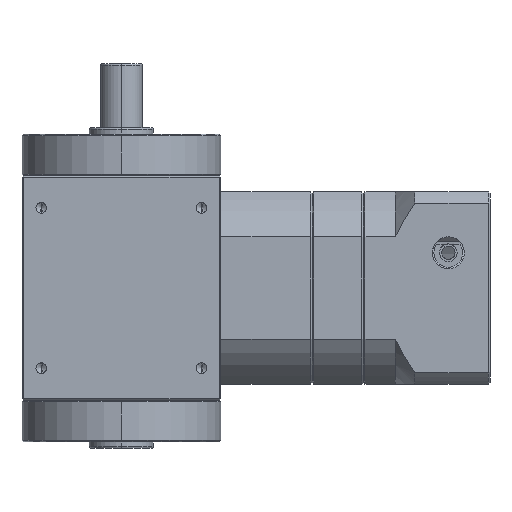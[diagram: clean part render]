
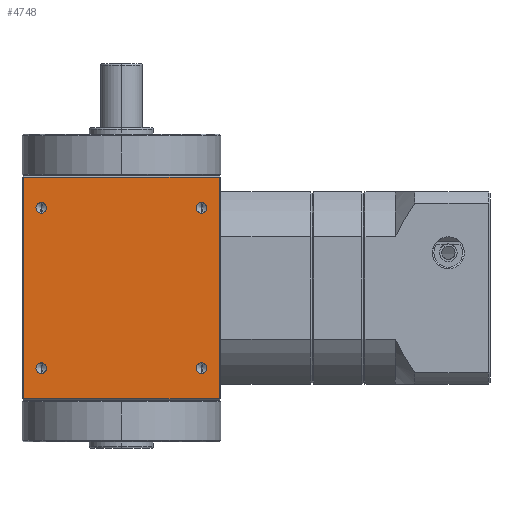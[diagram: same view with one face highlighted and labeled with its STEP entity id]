
A CAD part, left-side view. The second image highlights one B-rep face of the part: STEP entity #4748.
In plain terms, the highlighted planar face has unit normal (-1, 0, 0).
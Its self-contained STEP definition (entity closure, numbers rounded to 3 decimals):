
#153 = ORIENTED_EDGE ( 'NONE', *, *, #4326, .T. ) ;
#158 = ORIENTED_EDGE ( 'NONE', *, *, #1406, .F. ) ;
#161 = ORIENTED_EDGE ( 'NONE', *, *, #4324, .T. ) ;
#166 = ORIENTED_EDGE ( 'NONE', *, *, #4335, .T. ) ;
#168 = ORIENTED_EDGE ( 'NONE', *, *, #1368, .F. ) ;
#173 = ORIENTED_EDGE ( 'NONE', *, *, #4373, .F. ) ;
#174 = ORIENTED_EDGE ( 'NONE', *, *, #1419, .F. ) ;
#175 = ORIENTED_EDGE ( 'NONE', *, *, #4313, .F. ) ;
#181 = ORIENTED_EDGE ( 'NONE', *, *, #4332, .F. ) ;
#191 = ORIENTED_EDGE ( 'NONE', *, *, #1356, .F. ) ;
#192 = ORIENTED_EDGE ( 'NONE', *, *, #4319, .T. ) ;
#196 = ORIENTED_EDGE ( 'NONE', *, *, #4369, .F. ) ;
#990 = VERTEX_POINT ( 'NONE', #5071 ) ;
#1003 = VERTEX_POINT ( 'NONE', #5089 ) ;
#1040 = VERTEX_POINT ( 'NONE', #5126 ) ;
#1054 = VERTEX_POINT ( 'NONE', #5140 ) ;
#1055 = VERTEX_POINT ( 'NONE', #5141 ) ;
#1073 = VERTEX_POINT ( 'NONE', #5159 ) ;
#1074 = VERTEX_POINT ( 'NONE', #5160 ) ;
#1148 = VERTEX_POINT ( 'NONE', #5234 ) ;
#1173 = VERTEX_POINT ( 'NONE', #5259 ) ;
#1192 = VERTEX_POINT ( 'NONE', #5278 ) ;
#1249 = VERTEX_POINT ( 'NONE', #5305 ) ;
#1271 = VERTEX_POINT ( 'NONE', #5327 ) ;
#1356 = EDGE_CURVE ( 'NONE', #1173, #1148, #8085, .T. ) ;
#1368 = EDGE_CURVE ( 'NONE', #1271, #1249, #8106, .T. ) ;
#1406 = EDGE_CURVE ( 'NONE', #1055, #1054, #8154, .T. ) ;
#1419 = EDGE_CURVE ( 'NONE', #1073, #1074, #8178, .T. ) ;
#1533 = CARTESIAN_POINT ( 'NONE',  ( -31., -25., 25. ) ) ;
#1534 = DIRECTION ( 'NONE',  ( -1., 0., 0. ) ) ;
#1535 = DIRECTION ( 'NONE',  ( 0., 0., 1. ) ) ;
#1565 = DIRECTION ( 'NONE',  ( 0., 0., 1. ) ) ;
#1569 = CARTESIAN_POINT ( 'NONE',  ( -31., -30.5, 35. ) ) ;
#1570 = CARTESIAN_POINT ( 'NONE',  ( -31., -31., -34.5 ) ) ;
#1581 = DIRECTION ( 'NONE',  ( 0., 1., 0. ) ) ;
#1583 = DIRECTION ( 'NONE',  ( 0., -1., 0. ) ) ;
#1584 = CARTESIAN_POINT ( 'NONE',  ( -31., 31., 34.5 ) ) ;
#1607 = CARTESIAN_POINT ( 'NONE',  ( -31., -25., -25. ) ) ;
#1608 = DIRECTION ( 'NONE',  ( -1., 0., 0. ) ) ;
#1609 = DIRECTION ( 'NONE',  ( 0., 0., 1. ) ) ;
#1626 = CARTESIAN_POINT ( 'NONE',  ( -31., 30.5, 35. ) ) ;
#1627 = DIRECTION ( 'NONE',  ( 0., 0., -1. ) ) ;
#1788 = CARTESIAN_POINT ( 'NONE',  ( -31., 25., -25. ) ) ;
#1789 = DIRECTION ( 'NONE',  ( -1., 0., 0. ) ) ;
#1790 = DIRECTION ( 'NONE',  ( 0., 0., 1. ) ) ;
#1798 = CARTESIAN_POINT ( 'NONE',  ( -31., 25., 25. ) ) ;
#1799 = DIRECTION ( 'NONE',  ( -1., 0., 0. ) ) ;
#1800 = DIRECTION ( 'NONE',  ( 0., 0., 1. ) ) ;
#3470 = DIRECTION ( 'NONE',  ( 1., 0., 0. ) ) ;
#3472 = PLANE ( 'NONE',  #7701 ) ;
#3474 = CARTESIAN_POINT ( 'NONE',  ( -31., -31., 35. ) ) ;
#3476 = DIRECTION ( 'NONE',  ( 0., 0., -1. ) ) ;
#4313 = EDGE_CURVE ( 'NONE', #1054, #1055, #8230, .T. ) ;
#4319 = EDGE_CURVE ( 'NONE', #1192, #1003, #8235, .T. ) ;
#4324 = EDGE_CURVE ( 'NONE', #1040, #1192, #8236, .T. ) ;
#4326 = EDGE_CURVE ( 'NONE', #1003, #990, #8244, .T. ) ;
#4332 = EDGE_CURVE ( 'NONE', #1074, #1073, #8254, .T. ) ;
#4335 = EDGE_CURVE ( 'NONE', #990, #1040, #8256, .T. ) ;
#4369 = EDGE_CURVE ( 'NONE', #1148, #1173, #8293, .T. ) ;
#4373 = EDGE_CURVE ( 'NONE', #1249, #1271, #8297, .T. ) ;
#4748 = ADVANCED_FACE ( 'NONE', ( #8711, #8715, #8703, #8714, #8717 ), #3472, .F. ) ;
#5071 = CARTESIAN_POINT ( 'NONE',  ( -31., 30.5, 34.5 ) ) ;
#5089 = CARTESIAN_POINT ( 'NONE',  ( -31., -30.5, 34.5 ) ) ;
#5126 = CARTESIAN_POINT ( 'NONE',  ( -31., 30.5, -34.5 ) ) ;
#5140 = CARTESIAN_POINT ( 'NONE',  ( -31., -25., 26.65 ) ) ;
#5141 = CARTESIAN_POINT ( 'NONE',  ( -31., -25., 23.35 ) ) ;
#5159 = CARTESIAN_POINT ( 'NONE',  ( -31., -25., -26.65 ) ) ;
#5160 = CARTESIAN_POINT ( 'NONE',  ( -31., -25., -23.35 ) ) ;
#5234 = CARTESIAN_POINT ( 'NONE',  ( -31., 25., -23.35 ) ) ;
#5259 = CARTESIAN_POINT ( 'NONE',  ( -31., 25., -26.65 ) ) ;
#5278 = CARTESIAN_POINT ( 'NONE',  ( -31., -30.5, -34.5 ) ) ;
#5305 = CARTESIAN_POINT ( 'NONE',  ( -31., 25., 26.65 ) ) ;
#5327 = CARTESIAN_POINT ( 'NONE',  ( -31., 25., 23.35 ) ) ;
#5597 = CARTESIAN_POINT ( 'NONE',  ( -31., 25., -25. ) ) ;
#5598 = DIRECTION ( 'NONE',  ( -1., 0., 0. ) ) ;
#5599 = DIRECTION ( 'NONE',  ( 0., 0., 1. ) ) ;
#5625 = CARTESIAN_POINT ( 'NONE',  ( -31., 25., 25. ) ) ;
#5626 = DIRECTION ( 'NONE',  ( -1., 0., 0. ) ) ;
#5627 = DIRECTION ( 'NONE',  ( 0., 0., 1. ) ) ;
#5792 = CARTESIAN_POINT ( 'NONE',  ( -31., -25., 25. ) ) ;
#5793 = DIRECTION ( 'NONE',  ( -1., 0., 0. ) ) ;
#5794 = DIRECTION ( 'NONE',  ( 0., 0., 1. ) ) ;
#5822 = CARTESIAN_POINT ( 'NONE',  ( -31., -25., -25. ) ) ;
#5823 = DIRECTION ( 'NONE',  ( -1., 0., 0. ) ) ;
#5824 = DIRECTION ( 'NONE',  ( 0., 0., 1. ) ) ;
#6058 = EDGE_LOOP ( 'NONE', ( #161, #192, #153, #166 ) ) ;
#6061 = EDGE_LOOP ( 'NONE', ( #175, #158 ) ) ;
#6062 = EDGE_LOOP ( 'NONE', ( #196, #191 ) ) ;
#6065 = EDGE_LOOP ( 'NONE', ( #181, #174 ) ) ;
#6080 = EDGE_LOOP ( 'NONE', ( #173, #168 ) ) ;
#7437 = AXIS2_PLACEMENT_3D ( 'NONE', #5597, #5598, #5599 ) ;
#7440 = AXIS2_PLACEMENT_3D ( 'NONE', #5625, #5626, #5627 ) ;
#7446 = AXIS2_PLACEMENT_3D ( 'NONE', #5792, #5793, #5794 ) ;
#7450 = AXIS2_PLACEMENT_3D ( 'NONE', #5822, #5823, #5824 ) ;
#7459 = AXIS2_PLACEMENT_3D ( 'NONE', #1533, #1534, #1535 ) ;
#7467 = AXIS2_PLACEMENT_3D ( 'NONE', #1607, #1608, #1609 ) ;
#7482 = AXIS2_PLACEMENT_3D ( 'NONE', #1788, #1789, #1790 ) ;
#7484 = AXIS2_PLACEMENT_3D ( 'NONE', #1798, #1799, #1800 ) ;
#7701 = AXIS2_PLACEMENT_3D ( 'NONE', #3474, #3470, #3476 ) ;
#8085 = CIRCLE ( 'NONE', #7437, 1.65 ) ;
#8106 = CIRCLE ( 'NONE', #7440, 1.65 ) ;
#8154 = CIRCLE ( 'NONE', #7446, 1.65 ) ;
#8178 = CIRCLE ( 'NONE', #7450, 1.65 ) ;
#8230 = CIRCLE ( 'NONE', #7459, 1.65 ) ;
#8235 = LINE ( 'NONE', #1569, #8237 ) ;
#8236 = LINE ( 'NONE', #1570, #8247 ) ;
#8237 = VECTOR ( 'NONE', #1565, 1000. ) ;
#8244 = LINE ( 'NONE', #1584, #8250 ) ;
#8247 = VECTOR ( 'NONE', #1583, 1000. ) ;
#8250 = VECTOR ( 'NONE', #1581, 1000. ) ;
#8254 = CIRCLE ( 'NONE', #7467, 1.65 ) ;
#8256 = LINE ( 'NONE', #1626, #8257 ) ;
#8257 = VECTOR ( 'NONE', #1627, 1000. ) ;
#8293 = CIRCLE ( 'NONE', #7482, 1.65 ) ;
#8297 = CIRCLE ( 'NONE', #7484, 1.65 ) ;
#8703 = FACE_BOUND ( 'NONE', #6061, .T. ) ;
#8711 = FACE_BOUND ( 'NONE', #6062, .T. ) ;
#8714 = FACE_BOUND ( 'NONE', #6065, .T. ) ;
#8715 = FACE_BOUND ( 'NONE', #6080, .T. ) ;
#8717 = FACE_OUTER_BOUND ( 'NONE', #6058, .T. ) ;
